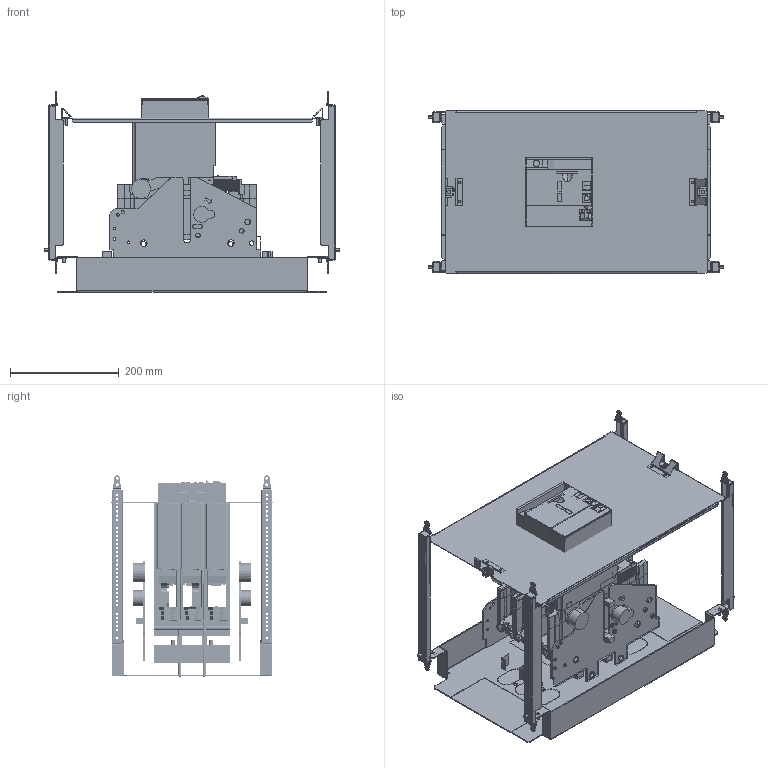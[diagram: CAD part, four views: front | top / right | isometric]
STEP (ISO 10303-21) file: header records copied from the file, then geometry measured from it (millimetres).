
FILE_DESCRIPTION(('CAx-IF Rec.Pracs.---Model Styling and Organization---1.2---2011-12-15','CAx-IF Rec.Pracs.---Geometric and Assembly Validation Properties---4.1---2014-06-16','CAx-IF Rec.Pracs.---PMI Polyline Presentation---2.0---2013-05-24'),'2;1');
FILE_NAME('R5PKIB7H61616.stp','2021-07-29T03:05:57+03:00',(''),(''),'STEP Interface 4.4 by CT CoreTechnologie','3D_Evolution4.4 by CT CoreTechnologie','');
FILE_SCHEMA(('AUTOMOTIVE_DESIGN { 1 0 10303 214 1 1 1 1 }'));
Length unit declared in the file: millimetre
Products named in the file (1): R5PKIB7H61616
Bounding box: 542 x 298 x 369.5 mm (x, y, z)
Surface area: 1848505 mm2 (no closed solid volume)
Topology: 0 solids, 94 shells, 6137 faces, 18072 edges, 11995 vertices
Faces by surface type: plane 4061, cylinder 1855, bspline 221
Entity records: 206858 total; most frequent: CARTESIAN_POINT 40828, ORIENTED_EDGE 35303, DIRECTION 33526, EDGE_CURVE 18017, VECTOR 13984, LINE 13984, VERTEX_POINT 12019, AXIS2_PLACEMENT_3D 9771
